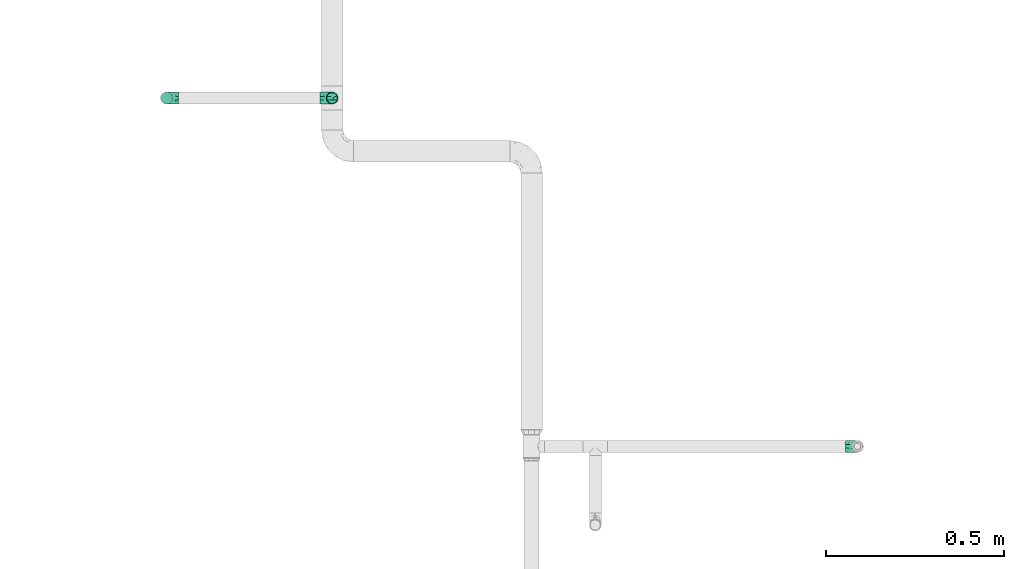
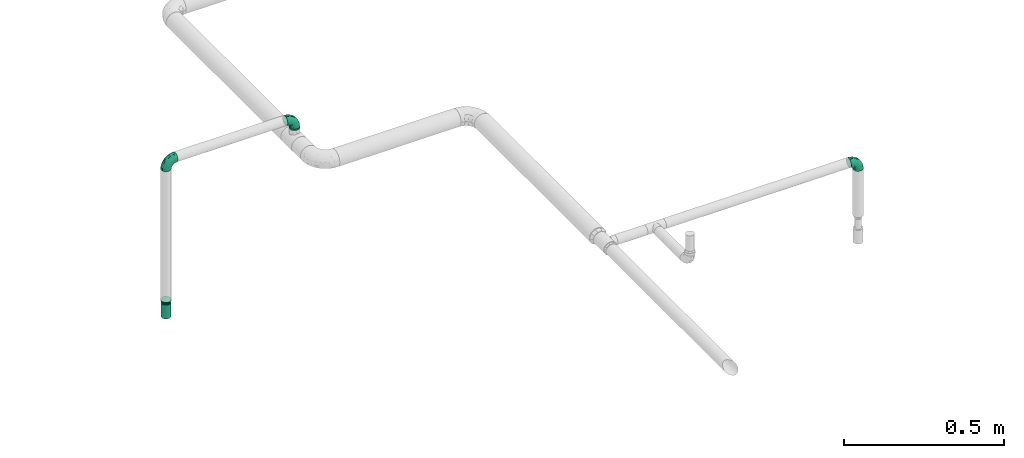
# One storey, part 21 of 43: 4 flow fittings, 1 flow segment, 1 flow terminal.
"""IFC2X3 building model written with IfcOpenShell, lengths in millimetres."""

from ifc_helpers import new_model, entity, si_unit, converted_unit, derived_unit, direction, frame, origin_with_axes, origin_2d_with_axis, place, context, subcontext, project, spatial, hollow_circle, extrude, open_shell, surface_model, source, transform, mapped, type_object, element, save


model = new_model("IFC2X3")

# Units and contexts
model_context = context("Model", 3, precision=0.01, world=frame((0.0, 4.29681676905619e-09, 0.0)), true_north=direction((4.01073788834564e-13, 1.0)))
plan_context = context("Plan", 3, precision=0.01, world=frame((0.0, 4.29681676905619e-09, 0.0)), true_north=direction((4.01073788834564e-13, 1.0)))
body_context = subcontext(model_context, "Body", "Model", "MODEL_VIEW")
ifc_project = project(units=[converted_unit("PLANEANGLEUNIT", "DEGREE", entity("IfcPositiveLengthMeasure", 0.0174532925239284), si_unit("PLANEANGLEUNIT", "RADIAN"), dimensions=[0, 0, 0, 0, 0, 0, 0]), si_unit("AREAUNIT", "SQUARE_METRE"), si_unit("LENGTHUNIT", "METRE", prefix="MILLI"), si_unit("MASSUNIT", "GRAM", prefix="KILO"), si_unit("POWERUNIT", "WATT"), si_unit("PRESSUREUNIT", "PASCAL"), si_unit("FORCEUNIT", "NEWTON", prefix="KILO"), si_unit("ELECTRICVOLTAGEUNIT", "VOLT"), si_unit("ELECTRICCURRENTUNIT", "AMPERE"), si_unit("THERMODYNAMICTEMPERATUREUNIT", "DEGREE_CELSIUS"), si_unit("TIMEUNIT", "SECOND"), si_unit("VOLUMEUNIT", "CUBIC_METRE"), derived_unit("LINEARVELOCITYUNIT", [(si_unit("LENGTHUNIT", "METRE"), 1), (si_unit("TIMEUNIT", "SECOND"), -1)]), derived_unit("VOLUMETRICFLOWRATEUNIT", [(si_unit("VOLUMEUNIT", "CUBIC_METRE"), 1), (si_unit("TIMEUNIT", "SECOND"), -1)]), derived_unit("THERMALTRANSMITTANCEUNIT", [(si_unit("POWERUNIT", "WATT"), 1), (si_unit("THERMODYNAMICTEMPERATUREUNIT", "KELVIN"), -1), (si_unit("AREAUNIT", "SQUARE_METRE"), -1)]), derived_unit("SOUNDPRESSUREUNIT", [(si_unit("PRESSUREUNIT", "PASCAL"), 1)])], contexts=[model_context, plan_context])

# Site, building, storey
site_placement = place(None, frame((0.0, -4.29681676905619e-09, 0.0), z_axis=(0.0, 0.0, 1.0), x_axis=(1.0, 0.0, 0.0)))
site = spatial("IfcSite", under=ifc_project, at=site_placement, CompositionType="ELEMENT")
building_placement = place(site_placement, frame((0.0, 4.29681676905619e-09, 0.0), z_axis=(0.0, 0.0, 1.0), x_axis=(1.0, 0.0, 0.0)))
building = spatial("IfcBuilding", under=site, at=building_placement, Name="mc-building", CompositionType="ELEMENT")
storey_placement = place(building_placement, frame((0.0, 0.0, 210900.0), z_axis=(0.0, 0.0, 1.0), x_axis=(1.0, 0.0, 0.0)))
storey = spatial("IfcBuildingStorey", under=building, at=storey_placement, Name="Nivå F", CompositionType="ELEMENT", Elevation=210900.0)

# Flow fittings
pipe_fitting_type_1 = type_object("IfcPipeFittingType", Name="magi_pipe_fe_elbow_short_001", PredefinedType="BEND")
shared_shape_1 = source(origin_with_axes(), body_context, "Body", "SurfaceModel", [
    surface_model("IfcShellBasedSurfaceModel", [(-33.8, 4.37404, -16.32415), (-33.8, 0.0, -16.9), (-33.8, 11.9501, -11.9501), (-33.8, 8.45, -14.63583), (-33.8, 16.32415, -4.37404), (-33.8, 14.63583, -8.45), (-33.8, -14.63583, -8.45), (-33.8, -16.32415, -4.37404), (-33.8, -8.45, 14.63583), (-33.8, -11.9501, -11.9501), (-33.8, -8.45, -14.63583), (-33.8, -4.37404, -16.32415), (-33.8, -16.9, 0.0), (-33.8, -16.32415, 4.37404), (-33.8, 11.9501, 11.9501), (-33.8, 14.63583, 8.45), (-33.8, 16.32415, 4.37404), (-33.8, 4.37404, 16.32415), (-33.8, 8.45, 14.63583), (-33.8, -14.63583, 8.45), (-33.8, -11.9501, 11.9501), (-33.8, -4.37404, 16.32415), (-33.8, 0.0, 16.9), (-33.8, 16.9, 0.0), (-11.9501, 33.8, -11.9501), (0.0, 33.8, -16.9), (-4.37404, 33.8, -16.32415), (-8.45, 33.8, -14.63583), (-14.63583, 33.8, -8.45), (-16.32415, 33.8, -4.37404), (14.63583, 33.8, -8.45), (8.45, 33.8, 14.63583), (16.32415, 33.8, -4.37404), (8.45, 33.8, -14.63583), (11.9501, 33.8, -11.9501), (4.37404, 33.8, -16.32415), (16.32415, 33.8, 4.37404), (16.9, 33.8, 0.0), (-11.9501, 33.8, 11.9501), (-16.32415, 33.8, 4.37404), (-14.63583, 33.8, 8.45), (-8.45, 33.8, 14.63583), (-4.37404, 33.8, 16.32415), (11.9501, 33.8, 11.9501), (14.63583, 33.8, 8.45), (0.0, 33.8, 16.9), (4.37404, 33.8, 16.32415), (-16.9, 33.8, 0.0), (-24.79389, -13.12945, 9.48721), (-22.19287, -9.75018, 12.59315), (-24.09897, -14.97035, 0.0), (-14.93934, -10.76256, 8.5297), (-22.46095, -14.75051, 5.27077), (14.75051, 22.46094, 5.27077), (11.9251, 13.23888, 4.33236), (13.04069, 14.39795, 0.0), (7.71387, 13.68847, 11.55891), (9.75018, 22.19287, 12.59315), (4.10169, 13.0571, 14.04018), (-24.84007, -6.39063, 15.2048), (-25.81779, -2.23879, 16.61097), (-23.66549, 2.59054, 16.87119), (-26.50418, 14.06512, 11.08152), (-24.21253, 17.66365, 7.72657), (-29.58514, 15.86957, 7.00283), (-6.17382, -7.5455, 0.0), (-13.23888, -11.9251, 4.33236), (-14.39795, -13.04069, 0.0), (-17.81434, 18.87373, 11.97104), (-6.30846, 29.15138, 15.82987), (-2.31622, 25.28002, 16.85849), (-29.23923, 10.23435, 13.77053), (-1.45439, -2.85688, 7.61475), (-0.28326, 0.34872, 10.09509), (-5.74484, -4.04709, 10.4122), (-4.41137, 11.31918, 16.59407), (-8.39727, 3.10034, 15.7812), (-1.72649, 9.1306, 15.53089), (-17.39909, 24.75344, 7.64977), (-26.19233, 20.0512, 0.0), (-28.14518, 17.29657, 4.25857), (-26.05147, 6.6281, 15.96447), (-5.87354, 16.61944, 16.86968), (-12.51807, 12.51807, 16.48937), (-10.06312, 7.38516, 16.81295), (-3.01882, 3.01882, 13.81718), (-13.0571, -4.10169, 14.04018), (-16.82553, -0.15166, 16.38038), (10.76256, 14.93934, 8.5297), (13.12945, 24.79389, 9.48721), (6.39063, 24.84007, 15.2048), (2.23879, 25.81779, 16.61097), (-13.68847, -7.71387, 11.55891), (14.97035, 24.09897, 0.0), (-7.30894, 22.89991, 16.09489), (-10.67958, 26.17414, 14.008), (-12.78295, 18.26924, 15.06066), (-13.88562, 22.45231, 12.93244), (-18.04944, 15.16501, 14.04434), (-23.11658, 20.08178, 4.02986), (-21.84989, 21.84989, 0.0), (-18.55817, 25.48277, 3.93065), (-13.95142, 26.94732, 11.03289), (-18.57098, 7.23906, 16.59756), (-16.58335, 4.14122, 16.89279), (-17.96666, 11.46709, 15.63151), (-9.84453, 17.54304, 16.18938), (0.15166, 16.82553, 16.38038), (-23.27207, 11.47201, 14.23154), (3.84842, 5.86994, 10.70473), (-8.0212, -7.54413, 7.93275), (1.00345, -2.19508, 4.57414), (5.13203, 3.01004, 5.90201), (5.24161, 1.7543, 2.53265), (8.70457, 7.04947, 3.99182), (-20.0512, 26.19233, 0.0), (8.4852, 8.76699, 7.09296), (-4.55488, -6.72064, 4.90681), (2.05031, -2.05031, 0.0), (7.5455, 6.17382, 0.0), (-26.75399, 2.1369, -16.845), (-14.61995, 24.73803, -11.27736), (-28.45274, -13.45335, -9.81895), (-26.00469, 6.63555, -15.96645), (-23.06726, 20.04573, -4.26202), (-13.80647, -4.26506, -14.17873), (-14.67501, -0.21081, -16.07388), (-6.7902, -0.2828, -13.8478), (-24.53586, 11.08096, -14.13417), (-26.72048, 14.00837, -11.05776), (10.0967, 24.44989, -12.75976), (5.83237, 21.40218, -15.03047), (6.66249, 28.54238, -15.38093), (-20.38182, 15.48705, -12.74596), (-15.65186, 19.64213, -13.01327), (-12.03528, 20.66498, -14.67665), (-15.61907, 15.61906, -14.83879), (-25.56551, -15.26206, 0.0), (-24.65452, -15.12934, -5.50955), (12.53268, 21.23441, -9.15363), (13.45335, 28.45274, -9.81895), (15.12934, 24.65452, -5.50955), (-7.35442, -8.31014, -5.65563), (-15.67504, -12.54494, -5.54878), (-24.44989, -10.0967, -12.75976), (0.16522, 0.41303, -9.71728), (-5.70658, -5.33066, -8.89288), (-5.13869, -2.37198, -11.53565), (-21.23441, -12.53268, -9.15363), (0.71146, 7.93863, -14.09382), (0.21081, 14.67501, -16.07388), (3.49291, 14.42772, -14.76381), (-24.89911, -2.13088, -16.591), (-28.54238, -6.66249, -15.38093), (-18.44386, -7.71663, -13.26957), (2.13088, 24.89911, -16.591), (-28.64342, 17.44413, -2.89318), (1.70017, -1.28722, -5.09504), (-16.57067, 26.81947, -7.36596), (-17.69055, 27.4263, -3.76405), (-12.89279, -9.7522, -8.66343), (-5.96611, 5.96611, -15.95814), (-20.53709, 20.09345, -8.28985), (-2.1369, 26.75399, -16.845), (-6.89872, 24.58781, -16.02578), (-10.60739, 26.53157, -13.98044), (-21.40218, -5.83237, -15.03047), (2.93192, 5.89627, -11.55917), (6.89393, 12.61842, -11.82233), (5.58056, 5.95325, -8.79455), (-3.99512, 18.61798, -16.89635), (-9.1383, 9.86148, -16.89041), (-9.99983, 16.02119, -16.39699), (-16.68576, 9.78031, -16.34199), (-27.01915, 16.61158, -7.12979), (15.26206, 25.56551, 0.0), (-18.61798, 3.99512, -16.89635), (-19.37495, 27.82495, 0.0), (9.7522, 12.89279, -8.66343), (-12.61842, -6.89393, -11.82233), (8.31014, 7.35442, -5.65563), (-18.84705, 19.14018, -10.96545), (12.54494, 15.67504, -5.54878)], [open_shell([[[0, 1, 2]], [[3, 0, 2]], [[4, 5, 2]], [[6, 2, 1]], [[2, 7, 8]], [[9, 6, 10]], [[1, 11, 10]], [[10, 6, 1]], [[2, 6, 7]], [[12, 13, 7]], [[4, 2, 14]], [[4, 15, 16]], [[4, 14, 15]], [[17, 18, 14]], [[14, 2, 8]], [[17, 14, 8]], [[19, 20, 13]], [[20, 7, 13]], [[21, 22, 8]], [[20, 8, 7]], [[8, 22, 17]], [[4, 16, 23]], [[24, 25, 26]], [[24, 26, 27]], [[24, 28, 29]], [[25, 24, 30]], [[31, 32, 24]], [[33, 30, 34]], [[33, 35, 25]], [[25, 30, 33]], [[32, 30, 24]], [[32, 36, 37]], [[38, 24, 29]], [[39, 40, 29]], [[40, 38, 29]], [[38, 41, 42]], [[38, 31, 24]], [[31, 38, 42]], [[36, 43, 44]], [[36, 32, 43]], [[31, 45, 46]], [[32, 31, 43]], [[42, 45, 31]], [[39, 29, 47]], [[20, 48, 49]], [[13, 12, 50]], [[51, 48, 52]], [[53, 54, 55]], [[48, 20, 19]], [[13, 52, 19]], [[56, 57, 58]], [[49, 8, 20]], [[49, 59, 8]], [[22, 60, 61]], [[62, 63, 64]], [[65, 66, 67]], [[57, 43, 31]], [[62, 68, 63]], [[42, 69, 70]], [[18, 71, 14]], [[21, 60, 22]], [[72, 73, 74]], [[75, 76, 77]], [[14, 62, 15]], [[40, 39, 78]], [[79, 23, 80]], [[64, 16, 15]], [[22, 61, 17]], [[17, 81, 18]], [[82, 83, 84]], [[74, 85, 86]], [[59, 86, 87]], [[88, 89, 57]], [[90, 31, 46]], [[44, 53, 36]], [[46, 45, 91]], [[54, 53, 88]], [[44, 89, 53]], [[92, 86, 49]], [[89, 44, 43]], [[8, 59, 21]], [[53, 55, 93]], [[93, 36, 53]], [[66, 52, 67]], [[94, 82, 70]], [[95, 96, 94]], [[97, 98, 96]], [[79, 99, 100]], [[41, 38, 95]], [[101, 100, 99]], [[68, 78, 63]], [[42, 41, 69]], [[23, 16, 80]], [[95, 94, 69]], [[78, 101, 99]], [[38, 102, 95]], [[70, 45, 42]], [[97, 95, 102]], [[13, 50, 52]], [[90, 57, 31]], [[57, 90, 58]], [[81, 17, 61]], [[103, 104, 84]], [[105, 81, 103]], [[38, 40, 102]], [[106, 96, 83]], [[94, 106, 82]], [[91, 70, 107]], [[71, 62, 14]], [[62, 108, 98]], [[86, 59, 49]], [[67, 52, 50]], [[60, 59, 87]], [[92, 49, 51]], [[86, 85, 76]], [[91, 90, 46]], [[37, 36, 93]], [[107, 77, 58]], [[107, 58, 90]], [[58, 85, 109]], [[110, 74, 92]], [[72, 74, 110]], [[66, 51, 52]], [[72, 111, 112]], [[113, 114, 112]], [[56, 88, 57]], [[52, 48, 19]], [[49, 48, 51]], [[57, 89, 43]], [[53, 89, 88]], [[103, 81, 61]], [[71, 81, 108]], [[16, 64, 80]], [[63, 78, 99]], [[47, 115, 101]], [[101, 115, 100]], [[40, 78, 102]], [[68, 102, 78]], [[97, 96, 95]], [[105, 98, 108]], [[103, 84, 83]], [[107, 70, 82]], [[76, 84, 87]], [[82, 84, 75]], [[70, 91, 45]], [[90, 91, 107]], [[59, 60, 21]], [[61, 60, 87]], [[73, 85, 74]], [[109, 112, 116]], [[103, 61, 104]], [[105, 103, 83]], [[96, 105, 83]], [[81, 105, 108]], [[96, 98, 105]], [[62, 98, 68]], [[61, 87, 104]], [[87, 84, 104]], [[86, 76, 87]], [[77, 76, 85]], [[58, 77, 85]], [[75, 77, 107]], [[82, 75, 107]], [[76, 75, 84]], [[81, 71, 18]], [[62, 71, 108]], [[95, 69, 41]], [[70, 69, 94]], [[62, 64, 15]], [[80, 63, 99]], [[63, 80, 64]], [[80, 99, 79]], [[66, 65, 117]], [[110, 66, 117]], [[112, 114, 116]], [[118, 117, 65]], [[110, 92, 51]], [[112, 111, 113]], [[119, 55, 54]], [[74, 86, 92]], [[58, 109, 56]], [[116, 56, 109]], [[66, 110, 51]], [[72, 110, 117]], [[111, 72, 117]], [[73, 112, 109]], [[117, 118, 111]], [[113, 111, 118]], [[118, 119, 113]], [[114, 119, 54]], [[119, 114, 113]], [[116, 54, 88]], [[54, 116, 114]], [[116, 88, 56]], [[112, 73, 72]], [[85, 73, 109]], [[78, 39, 101]], [[47, 101, 39]], [[102, 68, 97]], [[97, 68, 98]], [[82, 106, 83]], [[94, 96, 106]], [[0, 120, 1]], [[28, 24, 121]], [[9, 122, 6]], [[3, 123, 0]], [[100, 124, 79]], [[125, 126, 127]], [[128, 2, 129]], [[130, 131, 132]], [[128, 129, 133]], [[134, 135, 136]], [[128, 3, 2]], [[67, 137, 138]], [[139, 140, 141]], [[138, 7, 6]], [[142, 65, 143]], [[144, 9, 10]], [[145, 146, 147]], [[143, 138, 148]], [[149, 150, 151]], [[152, 11, 1]], [[10, 153, 144]], [[148, 144, 154]], [[153, 10, 11]], [[35, 155, 25]], [[23, 79, 156]], [[146, 157, 142]], [[158, 159, 29]], [[143, 160, 142]], [[161, 150, 149]], [[29, 28, 158]], [[121, 162, 158]], [[33, 34, 130]], [[25, 163, 26]], [[26, 163, 164]], [[140, 34, 30]], [[24, 27, 165]], [[124, 159, 162]], [[155, 35, 132]], [[153, 152, 166]], [[123, 3, 128]], [[167, 168, 169]], [[170, 155, 150]], [[26, 164, 27]], [[132, 35, 33]], [[140, 130, 34]], [[166, 152, 126]], [[133, 134, 136]], [[2, 5, 129]], [[168, 131, 130]], [[30, 32, 141]], [[170, 171, 172]], [[173, 123, 128]], [[156, 174, 4]], [[165, 27, 164]], [[172, 164, 170]], [[134, 165, 135]], [[122, 138, 6]], [[137, 12, 7]], [[32, 37, 175]], [[168, 130, 139]], [[150, 155, 131]], [[163, 155, 170]], [[151, 168, 149]], [[150, 161, 171]], [[166, 125, 154]], [[122, 144, 148]], [[120, 152, 1]], [[176, 171, 126]], [[176, 126, 152]], [[126, 161, 127]], [[160, 143, 148]], [[137, 7, 138]], [[32, 175, 141]], [[55, 141, 175]], [[174, 129, 5]], [[128, 133, 136]], [[173, 128, 136]], [[120, 123, 176]], [[121, 158, 28]], [[159, 100, 177]], [[164, 172, 135]], [[121, 24, 165]], [[159, 47, 29]], [[79, 124, 156]], [[124, 162, 174]], [[159, 124, 100]], [[178, 169, 168]], [[127, 161, 149]], [[145, 169, 157]], [[146, 142, 160]], [[127, 149, 167]], [[127, 179, 125]], [[129, 174, 162]], [[5, 4, 174]], [[157, 65, 142]], [[67, 138, 143]], [[123, 120, 0]], [[152, 120, 176]], [[155, 163, 25]], [[164, 163, 170]], [[170, 150, 171]], [[173, 136, 172]], [[126, 171, 161]], [[173, 171, 176]], [[171, 173, 172]], [[123, 173, 176]], [[148, 179, 160]], [[127, 147, 179]], [[179, 146, 160]], [[157, 146, 145]], [[169, 178, 180]], [[168, 139, 178]], [[157, 169, 180]], [[169, 145, 167]], [[167, 145, 147]], [[149, 168, 167]], [[162, 181, 129]], [[181, 121, 134]], [[179, 147, 146]], [[167, 147, 127]], [[181, 134, 133]], [[165, 134, 121]], [[164, 135, 165]], [[172, 136, 135]], [[129, 181, 133]], [[121, 181, 162]], [[159, 158, 162]], [[47, 159, 177]], [[174, 156, 124]], [[23, 156, 4]], [[130, 132, 33]], [[155, 132, 131]], [[141, 140, 30]], [[130, 140, 139]], [[152, 153, 11]], [[144, 153, 166]], [[144, 122, 9]], [[138, 122, 148]], [[150, 131, 151]], [[157, 119, 118]], [[67, 143, 65]], [[168, 151, 131]], [[119, 157, 180]], [[157, 118, 65]], [[154, 125, 179]], [[126, 125, 166]], [[148, 154, 179]], [[166, 154, 144]], [[139, 182, 178]], [[141, 182, 139]], [[178, 182, 180]], [[182, 55, 119]], [[141, 55, 182]], [[182, 119, 180]]])]),
])
for number, where, z_axis, x_axis, name in (
    (1, (606854.57252, 693237.31902, 2744.49987), (0.0, -1.0, 0.0), (-1.0, 0.0, 0.0), "magi_pipe_fe_elbow_short_001"),
    (2, (608794.57252, 692259.33183, 2660.0), (0.0, 1.0, 0.0), (1.0, 0.0, 0.0), "magi_pipe_fe_elbow_short_001"),
    (3, (607319.57252, 693237.31902, 2744.49987), (0.0, 1.0, 0.0), (1.0, 0.0, 0.0), "magi_pipe_fe_elbow_short_001"),
):
    element("IfcFlowFitting", number, at=place(storey_placement, frame(where, z_axis=z_axis, x_axis=x_axis)), inside=storey, type_object=pipe_fitting_type_1, Name=name, context=body_context, shape_type="MappedRepresentation", body=[
        mapped(shared_shape_1, transform((0.0, 0.0, 0.0), scale=1.0)),
    ])
pipe_fitting_type_2 = type_object("IfcPipeFittingType", Name="magi_pipe_fe_reducer_centric_short_NOR", PredefinedType="TRANSITION")
shared_shape_2 = source(origin_with_axes(), body_context, "Body", "SurfaceModel", [
    surface_model("IfcShellBasedSurfaceModel", [(14.4, 4.37404, -16.32415), (14.4, 8.45, -14.63583), (14.4, 11.9501, -11.9501), (14.4, -8.45, -14.63583), (14.4, 16.32415, -4.37404), (14.4, 16.32415, 4.37404), (14.4, 14.63583, -8.45), (14.4, 0.0, -16.9), (14.4, -4.37404, -16.32415), (14.4, -11.9501, -11.9501), (14.4, -16.32415, -4.37404), (14.4, -14.63583, -8.45), (14.4, -16.32415, 4.37404), (14.4, 16.9, 0.0), (14.4, 14.63583, 8.45), (14.4, 11.9501, 11.9501), (14.4, 4.37404, 16.32415), (14.4, 8.45, 14.63583), (14.4, 0.0, 16.9), (14.4, -14.63583, 8.45), (14.4, -16.9, 0.0), (14.4, -8.45, 14.63583), (14.4, -11.9501, 11.9501), (14.4, -4.37404, 16.32415), (12.4, 4.37404, 16.32415), (12.4, -14.63583, 8.45), (12.4, 0.0, 16.9), (12.4, 16.32415, 4.37404), (12.4, 8.45, 14.63583), (12.4, 11.9501, 11.9501), (12.4, 14.63583, 8.45), (12.4, -8.45, 14.63583), (12.4, -11.9501, 11.9501), (12.4, -4.37404, 16.32415), (12.4, -16.32415, 4.37404), (12.4, -16.32415, -4.37404), (12.4, -16.9, 0.0), (12.4, -8.45, -14.63583), (12.4, 16.32415, -4.37404), (12.4, 11.9501, -11.9501), (12.4, 14.63583, -8.45), (12.4, 8.45, -14.63583), (12.4, 4.37404, -16.32415), (12.4, 0.0, -16.9), (12.4, -11.9501, -11.9501), (12.4, -14.63583, -8.45), (12.4, -4.37404, -16.32415), (12.4, 16.9, 0.0), (-2.0, 10.33541, 2.76936), (-2.0, 0.0, 10.7), (-2.0, 2.76936, 10.33541), (-2.0, 7.56604, 7.56604), (-2.0, 5.35, 9.26647), (-2.0, 9.26647, 5.35), (-2.0, -9.26647, 5.35), (-2.0, -2.76936, 10.33541), (-2.0, -7.56604, 7.56604), (-2.0, -5.35, 9.26647), (-2.0, -10.33541, 2.76936), (-2.0, -10.33541, -2.76936), (-2.0, -10.7, 0.0), (-2.0, 10.33541, -2.76936), (-2.0, 7.56604, -7.56604), (-2.0, 9.26647, -5.35), (-2.0, 5.35, -9.26647), (-2.0, -5.35, -9.26647), (-2.0, 2.76936, -10.33541), (-2.0, -7.56604, -7.56604), (-2.0, -9.26647, -5.35), (-2.0, 0.0, -10.7), (-2.0, -2.76936, -10.33541), (-2.0, 10.7, 0.0), (0.0, 5.35, -9.26647), (0.0, 0.0, -10.7), (0.0, 2.76936, -10.33541), (0.0, 10.33541, -2.76936), (0.0, 7.56604, -7.56604), (0.0, -5.35, -9.26647), (0.0, 9.26647, -5.35), (0.0, -9.26647, 5.35), (0.0, -2.76936, -10.33541), (0.0, -7.56604, -7.56604), (0.0, -10.33541, -2.76936), (0.0, -9.26647, -5.35), (0.0, 10.33541, 2.76936), (0.0, 10.7, 0.0), (0.0, 9.26647, 5.35), (0.0, 7.56604, 7.56604), (0.0, 2.76936, 10.33541), (0.0, 0.0, 10.7), (0.0, 5.35, 9.26647), (0.0, -10.33541, 2.76936), (0.0, -10.7, 0.0), (0.0, -7.56604, 7.56604), (0.0, -2.76936, 10.33541), (0.0, -5.35, 9.26647), (0.0, -9.3625, -2.31662), (12.4, -14.42505, -5.97505), (12.4, -15.66253, -2.98753), (0.0, 6.6875, -6.94985), (12.4, 8.96258, -13.18758), (0.0, -6.6875, -6.94985), (12.4, -8.96258, -13.18758), (0.0, 9.3625, -2.31662), (12.4, 15.66253, -2.98753), (12.4, 14.42505, -5.97505), (12.4, -5.97505, -14.42505), (12.4, 5.97505, -14.42505), (0.0, 2.675, -9.26647), (12.4, 13.18758, -8.96258), (0.0, -2.675, -9.26647), (12.4, -13.18758, -8.96258), (0.0, -8.025, -4.63324), (12.4, 2.98753, -15.66253), (0.0, 0.0, -9.26647), (12.4, -2.98753, -15.66253), (0.0, 8.025, -4.63324), (0.0, 9.3625, 2.31662), (12.4, 14.42505, 5.97505), (12.4, 15.66253, 2.98753), (0.0, -6.6875, 6.94985), (12.4, -8.96258, 13.18758), (0.0, 6.6875, 6.94985), (12.4, 8.96258, 13.18758), (0.0, -9.3625, 2.31662), (12.4, -15.66253, 2.98753), (12.4, -14.42505, 5.97505), (12.4, 5.97505, 14.42505), (12.4, -5.97505, 14.42505), (0.0, -2.675, 9.26647), (12.4, -13.18758, 8.96258), (0.0, 2.675, 9.26647), (12.4, 13.18758, 8.96258), (0.0, 8.025, 4.63324), (12.4, -2.98753, 15.66253), (0.0, 0.0, 9.26647), (12.4, 2.98753, 15.66253), (0.0, -8.025, 4.63324)], [open_shell([[[0, 1, 2]], [[3, 0, 2]], [[2, 4, 5]], [[4, 2, 6]], [[2, 5, 3]], [[7, 3, 8]], [[7, 0, 3]], [[9, 10, 11]], [[10, 9, 3]], [[3, 12, 10]], [[5, 4, 13]], [[5, 14, 15]], [[5, 15, 16]], [[16, 12, 3]], [[16, 15, 17]], [[12, 16, 18]], [[18, 19, 12]], [[20, 10, 12]], [[19, 21, 22]], [[19, 18, 21]], [[21, 18, 23]], [[3, 5, 16]], [[24, 25, 26]], [[27, 24, 28]], [[29, 30, 27]], [[29, 27, 28]], [[25, 24, 27]], [[31, 25, 32]], [[31, 33, 26]], [[26, 25, 31]], [[34, 25, 27]], [[34, 35, 36]], [[34, 27, 37]], [[27, 38, 39]], [[39, 38, 40]], [[39, 41, 42]], [[37, 27, 39]], [[42, 43, 39]], [[35, 44, 45]], [[44, 35, 37]], [[37, 43, 46]], [[35, 34, 37]], [[39, 43, 37]], [[38, 27, 47]], [[35, 10, 36]], [[45, 11, 35]], [[3, 44, 37]], [[45, 44, 9]], [[8, 37, 46]], [[35, 11, 10]], [[10, 20, 36]], [[8, 3, 37]], [[9, 44, 3]], [[9, 11, 45]], [[7, 8, 46]], [[46, 43, 7]], [[42, 0, 43]], [[41, 1, 42]], [[6, 39, 40]], [[41, 39, 2]], [[4, 40, 38]], [[41, 2, 1]], [[1, 0, 42]], [[13, 4, 38]], [[6, 40, 4]], [[6, 2, 39]], [[47, 13, 38]], [[43, 0, 7]], [[27, 5, 47]], [[30, 14, 27]], [[17, 29, 28]], [[30, 29, 15]], [[16, 28, 24]], [[27, 14, 5]], [[5, 13, 47]], [[16, 17, 28]], [[15, 29, 17]], [[15, 14, 30]], [[18, 16, 24]], [[24, 26, 18]], [[33, 23, 26]], [[31, 21, 33]], [[19, 32, 25]], [[31, 32, 22]], [[12, 25, 34]], [[31, 22, 21]], [[21, 23, 33]], [[20, 12, 34]], [[19, 25, 12]], [[19, 22, 32]], [[36, 20, 34]], [[26, 23, 18]], [[48, 49, 50]], [[51, 50, 52]], [[51, 53, 48]], [[51, 48, 50]], [[49, 48, 54]], [[55, 56, 57]], [[56, 55, 54]], [[58, 59, 60]], [[54, 55, 49]], [[58, 54, 59]], [[54, 48, 61]], [[59, 54, 61]], [[62, 61, 63]], [[59, 62, 64]], [[61, 62, 59]], [[65, 64, 66]], [[59, 67, 68]], [[67, 59, 65]], [[65, 69, 70]], [[65, 59, 64]], [[66, 69, 65]], [[61, 48, 71]], [[72, 73, 74]], [[75, 72, 76]], [[77, 72, 75]], [[75, 76, 78]], [[79, 77, 75]], [[73, 77, 80]], [[73, 72, 77]], [[81, 82, 83]], [[82, 81, 77]], [[77, 79, 82]], [[84, 75, 85]], [[84, 86, 87]], [[75, 87, 79]], [[88, 89, 87]], [[88, 87, 90]], [[79, 87, 89]], [[82, 91, 92]], [[79, 91, 82]], [[93, 94, 95]], [[94, 93, 79]], [[89, 94, 79]], [[75, 84, 87]], [[59, 82, 60]], [[68, 83, 59]], [[77, 67, 65]], [[68, 67, 81]], [[80, 65, 70]], [[59, 83, 82]], [[82, 92, 60]], [[80, 77, 65]], [[81, 67, 77]], [[81, 83, 68]], [[73, 80, 70]], [[70, 69, 73]], [[66, 74, 69]], [[64, 72, 66]], [[78, 62, 63]], [[64, 62, 76]], [[75, 63, 61]], [[64, 76, 72]], [[72, 74, 66]], [[85, 75, 61]], [[78, 63, 75]], [[78, 76, 62]], [[71, 85, 61]], [[69, 74, 73]], [[48, 84, 71]], [[53, 86, 48]], [[90, 51, 52]], [[53, 51, 87]], [[88, 52, 50]], [[48, 86, 84]], [[84, 85, 71]], [[88, 90, 52]], [[87, 51, 90]], [[87, 86, 53]], [[89, 88, 50]], [[50, 49, 89]], [[55, 94, 49]], [[57, 95, 55]], [[79, 56, 54]], [[57, 56, 93]], [[91, 54, 58]], [[57, 93, 95]], [[95, 94, 55]], [[92, 91, 58]], [[79, 54, 91]], [[79, 93, 56]], [[60, 92, 58]], [[49, 94, 89]], [[29, 26, 39]], [[39, 47, 29]], [[36, 26, 32]], [[36, 44, 43]], [[43, 39, 36]], [[36, 39, 26]], [[92, 95, 77]], [[85, 95, 90]], [[85, 72, 77]], [[85, 77, 95]], [[96, 97, 98]], [[92, 96, 98]], [[99, 100, 72]], [[98, 36, 92]], [[44, 101, 102]], [[101, 77, 102]], [[103, 104, 105]], [[85, 47, 104]], [[77, 106, 102]], [[107, 108, 72]], [[109, 39, 99]], [[106, 77, 110]], [[101, 111, 112]], [[113, 114, 108]], [[100, 99, 39]], [[110, 115, 106]], [[99, 116, 109]], [[100, 107, 72]], [[96, 112, 97]], [[105, 116, 103]], [[85, 104, 103]], [[108, 107, 113]], [[113, 43, 114]], [[116, 105, 109]], [[114, 115, 110]], [[43, 115, 114]], [[111, 101, 44]], [[111, 97, 112]], [[117, 118, 119]], [[85, 117, 119]], [[120, 121, 95]], [[119, 47, 85]], [[29, 122, 123]], [[122, 90, 123]], [[124, 125, 126]], [[92, 36, 125]], [[90, 127, 123]], [[128, 129, 95]], [[130, 32, 120]], [[127, 90, 131]], [[122, 132, 133]], [[134, 135, 129]], [[121, 120, 32]], [[131, 136, 127]], [[120, 137, 130]], [[121, 128, 95]], [[117, 133, 118]], [[126, 137, 124]], [[92, 125, 124]], [[129, 128, 134]], [[134, 26, 135]], [[137, 126, 130]], [[135, 136, 131]], [[26, 136, 135]], [[132, 122, 29]], [[132, 118, 133]]])]),
])
flow_fitting_placement = place(storey_placement, frame((606854.57252, 693237.31902, 2196.95199999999), z_axis=(0.0, -1.0, 0.0), x_axis=(0.0, 0.0, 1.0)))
element("IfcFlowFitting", 4, at=flow_fitting_placement, inside=storey, type_object=pipe_fitting_type_2, Name="magi_pipe_fe_reducer_centric_short_NOR", context=body_context, shape_type="MappedRepresentation", body=[
    mapped(shared_shape_2, transform((0.0, 0.0, 0.0), scale=1.0)),
])

# Flow segment
pipe_segment_type = type_object("IfcPipeSegmentType", Name="Stålrør normaltykke", PredefinedType="RIGIDSEGMENT")
shared_shape_3 = source(origin_with_axes(), body_context, "Body", "SweptSolid", [
    extrude(hollow_circle(Radius=16.9, WallThickness=2.0, at=origin_2d_with_axis()), frame((0.0, 0.0, 0.0), z_axis=(1.0, 0.0, 0.0), x_axis=(0.0, 1.0, 0.0)), (0.0, 0.0, 1.0), 5.4),
])
flow_segment_placement = place(storey_placement, frame((607319.57252, 693237.31902, 2710.69987000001), z_axis=(0.0, 1.0, 0.0), x_axis=(0.0, 0.0, -1.0)))
element("IfcFlowSegment", 5, at=flow_segment_placement, inside=storey, type_object=pipe_segment_type, Name="Stålrør normaltykke", context=body_context, shape_type="MappedRepresentation", body=[
    mapped(shared_shape_3, transform((0.0, 0.0, 0.0), scale=1.0)),
])

# Flow terminal
fire_suppression_terminal_type = type_object("IfcFireSuppressionTerminalType", Name="SP-15-K80-68DGR-STD-HIMLING", PredefinedType="NOTDEFINED")
shared_shape_4 = source(origin_with_axes(), body_context, "Body", "SurfaceModel", [
    surface_model("IfcShellBasedSurfaceModel", [(4.1411, -15.45481, 53.0), (8.0, -13.85641, 53.0), (11.31371, -11.31371, 53.0), (-8.0, -13.85641, 53.0), (15.45481, -4.1411, 53.0), (16.0, 0.0, 53.0), (13.85641, -8.0, 53.0), (0.0, -16.0, 53.0), (-4.1411, -15.45481, 53.0), (-13.85641, -8.0, 53.0), (-11.31371, -11.31371, 53.0), (-15.45481, -4.1411, 53.0), (15.45481, 4.1411, 53.0), (13.85641, 8.0, 53.0), (11.31371, 11.31371, 53.0), (-4.1411, 15.45481, 53.0), (8.0, 13.85641, 53.0), (4.1411, 15.45481, 53.0), (0.0, 16.0, 53.0), (-13.85641, 8.0, 53.0), (-15.45481, 4.1411, 53.0), (-16.0, 0.0, 53.0), (-11.31371, 11.31371, 53.0), (-8.0, 13.85641, 53.0), (0.0, 16.0, 0.0), (4.1411, 15.45481, 0.0), (8.0, 13.85641, 0.0), (-4.1411, 15.45481, 0.0), (11.31371, 11.31371, 0.0), (13.85641, 8.0, 0.0), (15.45481, 4.1411, 0.0), (-15.45481, -4.1411, 0.0), (-11.31371, 11.31371, 0.0), (-8.0, 13.85641, 0.0), (-13.85641, 8.0, 0.0), (-15.45481, 4.1411, 0.0), (-16.0, 0.0, 0.0), (4.1411, -15.45481, 0.0), (16.0, 0.0, 0.0), (15.45481, -4.1411, 0.0), (13.85641, -8.0, 0.0), (11.31371, -11.31371, 0.0), (8.0, -13.85641, 0.0), (-8.0, -13.85641, 0.0), (-13.85641, -8.0, 0.0), (-11.31371, -11.31371, 0.0), (0.0, -16.0, 0.0), (-4.1411, -15.45481, 0.0)], [open_shell([[[0, 1, 2]], [[3, 0, 2]], [[4, 5, 2]], [[4, 2, 6]], [[3, 2, 5]], [[7, 3, 8]], [[7, 0, 3]], [[3, 9, 10]], [[9, 3, 11]], [[5, 11, 3]], [[5, 12, 11]], [[12, 13, 14]], [[15, 12, 14]], [[16, 17, 18]], [[14, 16, 15]], [[18, 15, 16]], [[11, 19, 20]], [[21, 11, 20]], [[22, 15, 23]], [[15, 22, 19]], [[19, 11, 15]], [[11, 12, 15]], [[24, 25, 26]], [[27, 24, 26]], [[28, 29, 30]], [[27, 26, 28]], [[27, 28, 31]], [[27, 32, 33]], [[32, 27, 34]], [[34, 31, 35]], [[31, 34, 27]], [[35, 31, 36]], [[28, 30, 31]], [[37, 38, 39]], [[37, 39, 40]], [[41, 42, 37]], [[41, 37, 40]], [[38, 37, 43]], [[44, 43, 45]], [[43, 44, 31]], [[43, 46, 47]], [[43, 31, 38]], [[37, 46, 43]], [[38, 31, 30]], [[11, 31, 44]], [[45, 9, 44]], [[3, 43, 47]], [[45, 43, 10]], [[8, 47, 46]], [[31, 21, 36]], [[31, 11, 21]], [[44, 9, 11]], [[45, 10, 9]], [[3, 10, 43]], [[47, 8, 3]], [[46, 7, 8]], [[0, 37, 42]], [[41, 1, 42]], [[6, 40, 39]], [[41, 40, 2]], [[4, 39, 38]], [[37, 0, 7]], [[42, 1, 0]], [[41, 2, 1]], [[40, 6, 2]], [[4, 6, 39]], [[38, 5, 4]], [[37, 7, 46]], [[12, 38, 30]], [[13, 30, 29]], [[16, 26, 25]], [[17, 25, 24]], [[30, 13, 12]], [[12, 5, 38]], [[28, 14, 13]], [[28, 26, 14]], [[14, 26, 16]], [[25, 17, 16]], [[28, 13, 29]], [[24, 18, 17]], [[15, 27, 33]], [[32, 23, 33]], [[19, 34, 35]], [[32, 34, 22]], [[20, 35, 36]], [[27, 15, 18]], [[33, 23, 15]], [[32, 22, 23]], [[34, 19, 22]], [[20, 19, 35]], [[36, 21, 20]], [[27, 18, 24]]])]),
])
flow_terminal_placement = place(storey_placement, frame((606854.57252, 693237.31902, 2200.0), z_axis=(0.0, 0.0, -1.0), x_axis=(0.0, 1.0, 0.0)))
element("IfcFlowTerminal", 6, at=flow_terminal_placement, inside=storey, type_object=fire_suppression_terminal_type, Name="SP-15-K80-68DGR-STD-HIMLING", context=body_context, shape_type="MappedRepresentation", body=[
    mapped(shared_shape_4, transform((0.0, 0.0, 0.0), scale=1.0)),
])

save(model, "model.ifc")
